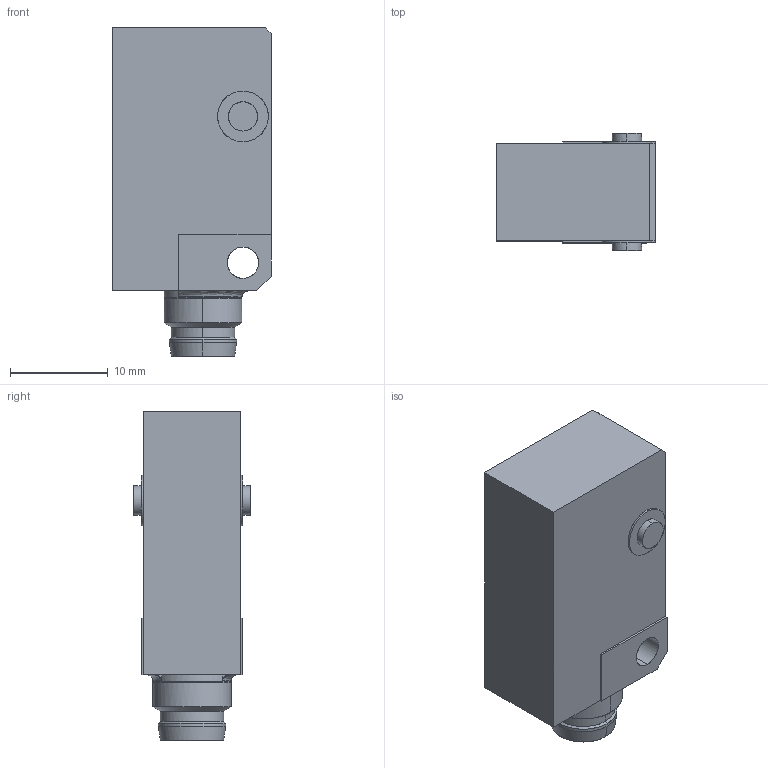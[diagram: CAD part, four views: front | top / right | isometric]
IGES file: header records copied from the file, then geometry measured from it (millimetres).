
Start section: Comment
Global section: file name: OSDK 10_S35A.igs; native system:  By Spatial Corp.; preprocessor: XPlus GENERIC/IGES 3.0; author: Author; organization: Title; date: 20060329.095718; units: inch
Bounding box: 16.35 x 12 x 33.7 mm (x, y, z)
Surface area: 2151.8 mm2 (no closed solid volume)
Topology: 0 solids, 0 shells, 127 faces, 652 edges, 652 vertices
Faces by surface type: bspline 127
